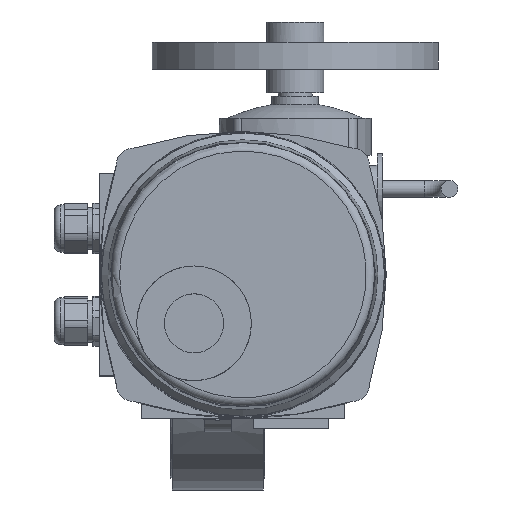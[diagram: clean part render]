
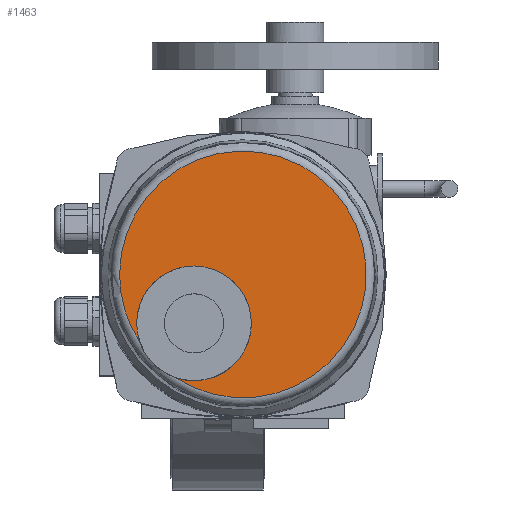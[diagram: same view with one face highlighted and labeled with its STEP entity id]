
A CAD part, top view. The second image highlights one B-rep face of the part: STEP entity #1463.
In plain terms, the highlighted planar face has unit normal (0, 0, 1).
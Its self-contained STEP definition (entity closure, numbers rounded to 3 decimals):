
#1463=ADVANCED_FACE('',(#8886),#8888,.T.);
#8886=FACE_BOUND('',#8887,.T.);
#8887=EDGE_LOOP('',(#14607,#14608,#14609,#14610));
#8888=PLANE('',#8889);
#8889=AXIS2_PLACEMENT_3D('',#8890,#8891,#8892);
#8890=CARTESIAN_POINT('',(15.,35.,465.));
#8891=DIRECTION('',(0.,0.,1.));
#8892=DIRECTION('',(-1.,0.,0.));
#14607=ORIENTED_EDGE('',*,*,#18873,.F.);
#14608=ORIENTED_EDGE('',*,*,#18874,.F.);
#14609=ORIENTED_EDGE('',*,*,#18855,.F.);
#14610=ORIENTED_EDGE('',*,*,#18854,.F.);
#18854=EDGE_CURVE('',#21446,#21449,#21450,.T.);
#18855=EDGE_CURVE('',#21449,#21447,#21451,.T.);
#18873=EDGE_CURVE('',#21474,#21446,#21475,.T.);
#18874=EDGE_CURVE('',#21447,#21474,#21476,.T.);
#21446=VERTEX_POINT('',#26513);
#21447=VERTEX_POINT('',#26514);
#21449=VERTEX_POINT('',#26543);
#21450=CIRCLE('',#26544,73.139);
#21451=CIRCLE('',#26548,73.139);
#21474=VERTEX_POINT('',#26625);
#21475=CIRCLE('',#26626,34.);
#21476=CIRCLE('',#26630,34.);
#26513=CARTESIAN_POINT('',(-46.08,-5.231,465.));
#26514=CARTESIAN_POINT('',(-25.231,-26.08,465.));
#26543=CARTESIAN_POINT('',(-58.139,35.,465.));
#26544=AXIS2_PLACEMENT_3D('',#26545,#26546,#26547);
#26545=CARTESIAN_POINT('',(15.,35.,465.));
#26546=DIRECTION('',(0.,0.,-1.));
#26547=DIRECTION('',(-0.835,-0.55,0.));
#26548=AXIS2_PLACEMENT_3D('',#26549,#26550,#26551);
#26549=CARTESIAN_POINT('',(15.,35.,465.));
#26550=DIRECTION('',(0.,0.,-1.));
#26551=DIRECTION('',(-1.,0.,0.));
#26625=CARTESIAN_POINT('',(-13.991,40.009,465.));
#26626=AXIS2_PLACEMENT_3D('',#26627,#26628,#26629);
#26627=CARTESIAN_POINT('',(-13.991,6.009,465.));
#26628=DIRECTION('',(0.,0.,1.));
#26629=DIRECTION('',(0.,1.,0.));
#26630=AXIS2_PLACEMENT_3D('',#26631,#26632,#26633);
#26631=CARTESIAN_POINT('',(-13.991,6.009,465.));
#26632=DIRECTION('',(0.,0.,1.));
#26633=DIRECTION('',(-0.331,-0.944,0.));
